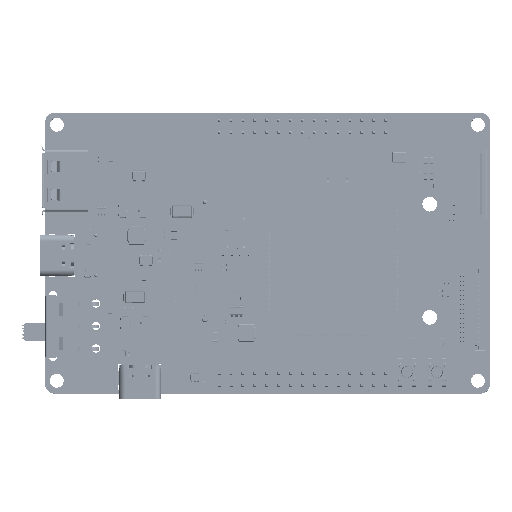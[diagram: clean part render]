
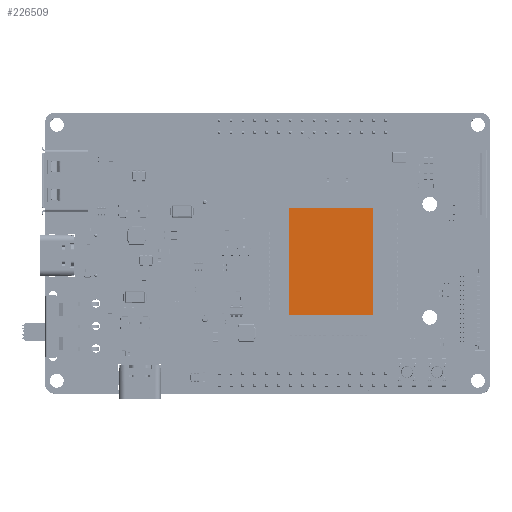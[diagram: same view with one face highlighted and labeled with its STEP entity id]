
A CAD part, top view. The second image highlights one B-rep face of the part: STEP entity #226509.
In plain terms, the highlighted planar face has unit normal (0, 0, 1).
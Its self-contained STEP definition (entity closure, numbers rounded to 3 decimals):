
#226396 = VERTEX_POINT('',#226397);
#226397 = CARTESIAN_POINT('',(0.,-18.,2.5));
#226403 = EDGE_CURVE('',#226404,#226396,#226406,.T.);
#226404 = VERTEX_POINT('',#226405);
#226405 = CARTESIAN_POINT('',(0.,0.,2.5));
#226406 = LINE('',#226407,#226408);
#226407 = CARTESIAN_POINT('',(0.,0.,2.5));
#226408 = VECTOR('',#226409,1.);
#226409 = DIRECTION('',(0.,-1.,0.));
#226450 = VERTEX_POINT('',#226451);
#226451 = CARTESIAN_POINT('',(23.,-18.,2.5));
#226457 = EDGE_CURVE('',#226396,#226450,#226458,.T.);
#226458 = LINE('',#226459,#226460);
#226459 = CARTESIAN_POINT('',(0.,-18.,2.5));
#226460 = VECTOR('',#226461,1.);
#226461 = DIRECTION('',(1.,0.,0.));
#226474 = VERTEX_POINT('',#226475);
#226475 = CARTESIAN_POINT('',(23.,0.,2.5));
#226481 = EDGE_CURVE('',#226450,#226474,#226482,.T.);
#226482 = LINE('',#226483,#226484);
#226483 = CARTESIAN_POINT('',(23.,0.,2.5));
#226484 = VECTOR('',#226485,1.);
#226485 = DIRECTION('',(0.,1.,-0.));
#226498 = EDGE_CURVE('',#226474,#226404,#226499,.T.);
#226499 = LINE('',#226500,#226501);
#226500 = CARTESIAN_POINT('',(0.,0.,2.5));
#226501 = VECTOR('',#226502,1.);
#226502 = DIRECTION('',(-1.,-0.,-0.));
#226509 = ADVANCED_FACE('',(#226510),#226516,.T.);
#226510 = FACE_BOUND('',#226511,.T.);
#226511 = EDGE_LOOP('',(#226512,#226513,#226514,#226515));
#226512 = ORIENTED_EDGE('',*,*,#226403,.T.);
#226513 = ORIENTED_EDGE('',*,*,#226457,.T.);
#226514 = ORIENTED_EDGE('',*,*,#226481,.T.);
#226515 = ORIENTED_EDGE('',*,*,#226498,.T.);
#226516 = PLANE('',#226517);
#226517 = AXIS2_PLACEMENT_3D('',#226518,#226519,#226520);
#226518 = CARTESIAN_POINT('',(0.,0.,2.5));
#226519 = DIRECTION('',(-0.,0.,1.));
#226520 = DIRECTION('',(1.,0.,0.));
